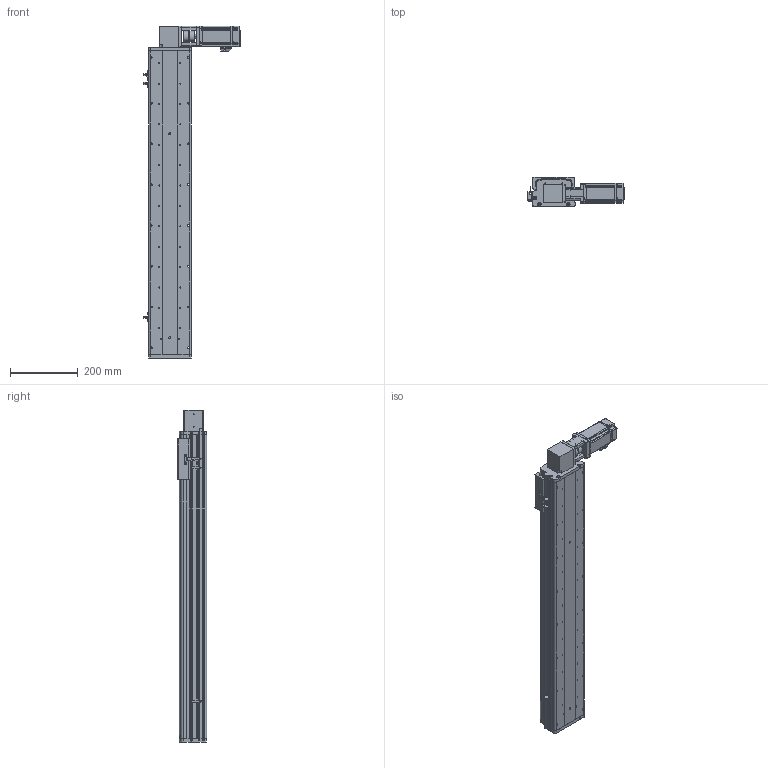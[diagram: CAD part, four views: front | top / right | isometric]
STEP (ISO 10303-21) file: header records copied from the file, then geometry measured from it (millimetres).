
FILE_DESCRIPTION (( 'STEP AP214' ), '1' );
FILE_NAME ('KSD125B-S700-MRT-CM.STEP', '2017-10-21T06:56:50', ( '微软用户' ), ( '微软中国' ), 'SwSTEP 2.0', 'SolidWorks 2014', '' );
FILE_SCHEMA (( 'AUTOMOTIVE_DESIGN' ));
Length unit declared in the file: millimetre
Products named in the file (16): U倰嫖萇EEㄜSX672; KSD125模组同步带-防撞垫1; 100宽安装板同步带带电机座400W,86; 前端板-125宽模组同步带; 125模组同步带-尾端板1; KSD125模组同步带-滑动座1; KSD125B-S700-MRT-CM; 100宽马达安装板同步带左; KSD125模组700行程同步带-防尘盖; 125模组700行程同步带-底板; MHMD042G1CA_2_03; KSD125模组同步带-防撞垫2; CS-34X32-10X14; 100遵鎮湛假蚾啣1 ; 覜茼え68遵圉猾敕; U倰嫖萇假蚾璃
Assembly tree (19 placements, depth 2):
  KSD125B-S700-MRT-CM
    KSD125模组同步带-滑动座1
    125模组同步带-尾端板1
    前端板-125宽模组同步带
    100宽安装板同步带带电机座400W,86
    KSD125模组同步带-防撞垫1
    U倰嫖萇EEㄜSX672  x3
    U倰嫖萇假蚾璃  x3
    覜茼え68遵圉猾敕
    100遵鎮湛假蚾啣1 
    CS-34X32-10X14
    KSD125模组同步带-防撞垫2
    MHMD042G1CA_2_03
    125模组700行程同步带-底板
    KSD125模组700行程同步带-防尘盖
    100宽马达安装板同步带左
Bounding box: 282.7 x 86 x 977 mm (x, y, z)
Volume: 3108217.9 mm3; surface area: 1035698.1 mm2
Topology: 18 solids, 21 shells, 1674 faces, 4798 edges, 3164 vertices
Faces by surface type: cylinder 869, plane 702, cone 81, bspline 22
Entity records: 58734 total; most frequent: CARTESIAN_POINT 11900, DIRECTION 8593, ORIENTED_EDGE 8116, EDGE_CURVE 4136, AXIS2_PLACEMENT_3D 3189, VERTEX_POINT 2756, LINE 2215, VECTOR 2215
